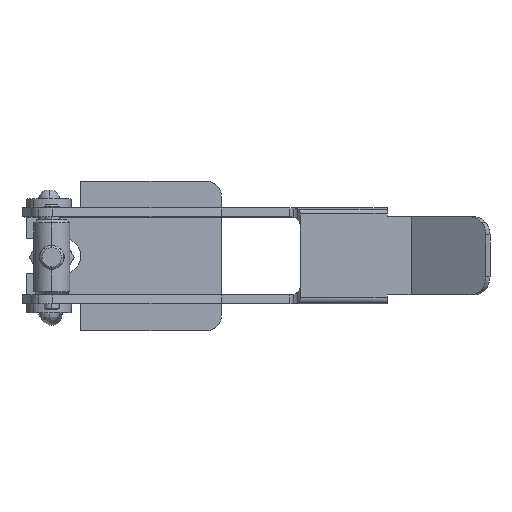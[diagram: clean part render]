
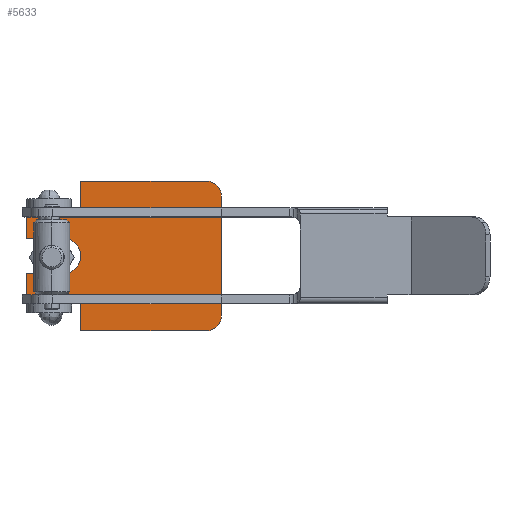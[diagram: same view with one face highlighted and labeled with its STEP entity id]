
A CAD part, top view. The second image highlights one B-rep face of the part: STEP entity #5633.
In plain terms, the highlighted planar face has unit normal (0, 0, 1).
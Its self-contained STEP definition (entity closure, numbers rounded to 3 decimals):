
#5167=CARTESIAN_POINT('',(-17.,0.,1.5));
#5168=VERTEX_POINT('',#5167);
#5184=CARTESIAN_POINT('',(-23.,-6.,1.5));
#5185=VERTEX_POINT('',#5184);
#5192=CARTESIAN_POINT('',(-23.,0.,1.5));
#5193=DIRECTION('',(0.0,0.0,-1.0));
#5194=DIRECTION('',(1.0,0.0,0.0));
#5195=AXIS2_PLACEMENT_3D('',#5192,#5193,#5194);
#5196=CIRCLE('',#5195,6.0);
#5197=EDGE_CURVE('',#5168,#5185,#5196,.T.);
#5460=CARTESIAN_POINT('',(-20.0,-15.5,1.5));
#5461=VERTEX_POINT('',#5460);
#5469=CARTESIAN_POINT('',(-35.,-15.5,1.5));
#5470=VERTEX_POINT('',#5469);
#5471=CARTESIAN_POINT('',(-20.0,-15.5,1.5));
#5472=DIRECTION('',(-1.0,0.0,0.0));
#5473=VECTOR('',#5472,15.);
#5474=LINE('',#5471,#5473);
#5475=EDGE_CURVE('',#5461,#5470,#5474,.T.);
#5487=CARTESIAN_POINT('',(-0.009,0.,1.5));
#5488=DIRECTION('',(0.0,0.0,1.0));
#5489=DIRECTION('',(1.0,0.0,0.0));
#5490=AXIS2_PLACEMENT_3D('',#5487,#5488,#5489);
#5491=PLANE('',#5490);
#5492=ORIENTED_EDGE('',*,*,#5475,.F.);
#5493=CARTESIAN_POINT('',(-20.0,-16.5,1.5));
#5494=VERTEX_POINT('',#5493);
#5495=CARTESIAN_POINT('',(-20.0,-15.5,1.5));
#5496=DIRECTION('',(0.0,-1.0,0.0));
#5497=VECTOR('',#5496,1.);
#5498=LINE('',#5495,#5497);
#5499=EDGE_CURVE('',#5461,#5494,#5498,.T.);
#5500=ORIENTED_EDGE('',*,*,#5499,.T.);
#5501=CARTESIAN_POINT('',(-17.0,-16.5,1.5));
#5502=VERTEX_POINT('',#5501);
#5503=CARTESIAN_POINT('',(-18.5,-16.5,1.5));
#5504=DIRECTION('',(0.0,0.0,1.0));
#5505=DIRECTION('',(1.0,0.0,0.0));
#5506=AXIS2_PLACEMENT_3D('',#5503,#5504,#5505);
#5507=CIRCLE('',#5506,1.5);
#5508=EDGE_CURVE('',#5502,#5494,#5507,.T.);
#5509=ORIENTED_EDGE('',*,*,#5508,.F.);
#5510=CARTESIAN_POINT('',(-17.0,-25.,1.5));
#5511=VERTEX_POINT('',#5510);
#5512=CARTESIAN_POINT('',(-17.0,-25.,1.5));
#5513=DIRECTION('',(0.0,1.0,0.0));
#5514=VECTOR('',#5513,8.5);
#5515=LINE('',#5512,#5514);
#5516=EDGE_CURVE('',#5511,#5502,#5515,.T.);
#5517=ORIENTED_EDGE('',*,*,#5516,.F.);
#5518=CARTESIAN_POINT('',(25.,-25.,1.5));
#5519=VERTEX_POINT('',#5518);
#5520=CARTESIAN_POINT('',(25.,-25.,1.5));
#5521=DIRECTION('',(-1.0,0.0,0.0));
#5522=VECTOR('',#5521,42.);
#5523=LINE('',#5520,#5522);
#5524=EDGE_CURVE('',#5519,#5511,#5523,.T.);
#5525=ORIENTED_EDGE('',*,*,#5524,.F.);
#5526=CARTESIAN_POINT('',(30.,-20.,1.5));
#5527=VERTEX_POINT('',#5526);
#5528=CARTESIAN_POINT('',(25.,-20.,1.5));
#5529=DIRECTION('',(0.0,0.0,-1.0));
#5530=DIRECTION('',(1.0,0.0,0.0));
#5531=AXIS2_PLACEMENT_3D('',#5528,#5529,#5530);
#5532=CIRCLE('',#5531,5.);
#5533=EDGE_CURVE('',#5527,#5519,#5532,.T.);
#5534=ORIENTED_EDGE('',*,*,#5533,.F.);
#5535=CARTESIAN_POINT('',(30.,20.,1.5));
#5536=VERTEX_POINT('',#5535);
#5537=CARTESIAN_POINT('',(30.,20.,1.5));
#5538=DIRECTION('',(0.0,-1.0,0.0));
#5539=VECTOR('',#5538,40.0);
#5540=LINE('',#5537,#5539);
#5541=EDGE_CURVE('',#5536,#5527,#5540,.T.);
#5542=ORIENTED_EDGE('',*,*,#5541,.F.);
#5543=CARTESIAN_POINT('',(25.,25.,1.5));
#5544=VERTEX_POINT('',#5543);
#5545=CARTESIAN_POINT('',(25.,20.,1.5));
#5546=DIRECTION('',(0.0,0.0,-1.0));
#5547=DIRECTION('',(1.0,0.0,0.0));
#5548=AXIS2_PLACEMENT_3D('',#5545,#5546,#5547);
#5549=CIRCLE('',#5548,5.);
#5550=EDGE_CURVE('',#5544,#5536,#5549,.T.);
#5551=ORIENTED_EDGE('',*,*,#5550,.F.);
#5552=CARTESIAN_POINT('',(-17.0,25.,1.5));
#5553=VERTEX_POINT('',#5552);
#5554=CARTESIAN_POINT('',(-17.0,25.,1.5));
#5555=DIRECTION('',(1.0,0.0,0.0));
#5556=VECTOR('',#5555,42.);
#5557=LINE('',#5554,#5556);
#5558=EDGE_CURVE('',#5553,#5544,#5557,.T.);
#5559=ORIENTED_EDGE('',*,*,#5558,.F.);
#5560=CARTESIAN_POINT('',(-17.0,16.5,1.5));
#5561=VERTEX_POINT('',#5560);
#5562=CARTESIAN_POINT('',(-17.0,16.5,1.5));
#5563=DIRECTION('',(0.0,1.0,0.0));
#5564=VECTOR('',#5563,8.5);
#5565=LINE('',#5562,#5564);
#5566=EDGE_CURVE('',#5561,#5553,#5565,.T.);
#5567=ORIENTED_EDGE('',*,*,#5566,.F.);
#5568=CARTESIAN_POINT('',(-20.0,16.5,1.5));
#5569=VERTEX_POINT('',#5568);
#5570=CARTESIAN_POINT('',(-18.5,16.5,1.5));
#5571=DIRECTION('',(0.0,0.0,1.0));
#5572=DIRECTION('',(1.0,0.0,0.0));
#5573=AXIS2_PLACEMENT_3D('',#5570,#5571,#5572);
#5574=CIRCLE('',#5573,1.5);
#5575=EDGE_CURVE('',#5569,#5561,#5574,.T.);
#5576=ORIENTED_EDGE('',*,*,#5575,.F.);
#5577=CARTESIAN_POINT('',(-20.0,15.5,1.5));
#5578=VERTEX_POINT('',#5577);
#5579=CARTESIAN_POINT('',(-20.0,16.5,1.5));
#5580=DIRECTION('',(0.0,-1.0,0.0));
#5581=VECTOR('',#5580,1.);
#5582=LINE('',#5579,#5581);
#5583=EDGE_CURVE('',#5569,#5578,#5582,.T.);
#5584=ORIENTED_EDGE('',*,*,#5583,.T.);
#5585=CARTESIAN_POINT('',(-35.,15.5,1.5));
#5586=VERTEX_POINT('',#5585);
#5587=CARTESIAN_POINT('',(-35.,15.5,1.5));
#5588=DIRECTION('',(1.0,0.0,0.0));
#5589=VECTOR('',#5588,15.);
#5590=LINE('',#5587,#5589);
#5591=EDGE_CURVE('',#5586,#5578,#5590,.T.);
#5592=ORIENTED_EDGE('',*,*,#5591,.F.);
#5593=CARTESIAN_POINT('',(-35.,6.,1.5));
#5594=VERTEX_POINT('',#5593);
#5595=CARTESIAN_POINT('',(-35.,6.,1.5));
#5596=DIRECTION('',(0.0,1.0,0.0));
#5597=VECTOR('',#5596,9.5);
#5598=LINE('',#5595,#5597);
#5599=EDGE_CURVE('',#5594,#5586,#5598,.T.);
#5600=ORIENTED_EDGE('',*,*,#5599,.F.);
#5601=CARTESIAN_POINT('',(-23.,6.,1.5));
#5602=VERTEX_POINT('',#5601);
#5603=CARTESIAN_POINT('',(-35.,6.,1.5));
#5604=DIRECTION('',(1.0,0.0,0.0));
#5605=VECTOR('',#5604,12.);
#5606=LINE('',#5603,#5605);
#5607=EDGE_CURVE('',#5594,#5602,#5606,.T.);
#5608=ORIENTED_EDGE('',*,*,#5607,.T.);
#5609=CARTESIAN_POINT('',(-23.,0.,1.5));
#5610=DIRECTION('',(0.0,0.0,-1.0));
#5611=DIRECTION('',(1.0,0.0,0.0));
#5612=AXIS2_PLACEMENT_3D('',#5609,#5610,#5611);
#5613=CIRCLE('',#5612,6.0);
#5614=EDGE_CURVE('',#5602,#5168,#5613,.T.);
#5615=ORIENTED_EDGE('',*,*,#5614,.T.);
#5616=ORIENTED_EDGE('',*,*,#5197,.T.);
#5617=CARTESIAN_POINT('',(-35.,-6.,1.5));
#5618=VERTEX_POINT('',#5617);
#5619=CARTESIAN_POINT('',(-23.,-6.,1.5));
#5620=DIRECTION('',(-1.0,0.0,0.0));
#5621=VECTOR('',#5620,12.);
#5622=LINE('',#5619,#5621);
#5623=EDGE_CURVE('',#5185,#5618,#5622,.T.);
#5624=ORIENTED_EDGE('',*,*,#5623,.T.);
#5625=CARTESIAN_POINT('',(-35.,-15.5,1.5));
#5626=DIRECTION('',(0.0,1.0,0.0));
#5627=VECTOR('',#5626,9.5);
#5628=LINE('',#5625,#5627);
#5629=EDGE_CURVE('',#5470,#5618,#5628,.T.);
#5630=ORIENTED_EDGE('',*,*,#5629,.F.);
#5631=EDGE_LOOP('',(#5492,#5500,#5509,#5517,#5525,#5534,#5542,#5551,#5559,#5567,#5576,#5584,#5592,#5600,#5608,#5615,#5616,#5624,#5630));
#5632=FACE_OUTER_BOUND('',#5631,.T.);
#5633=ADVANCED_FACE('',(#5632),#5491,.T.);
